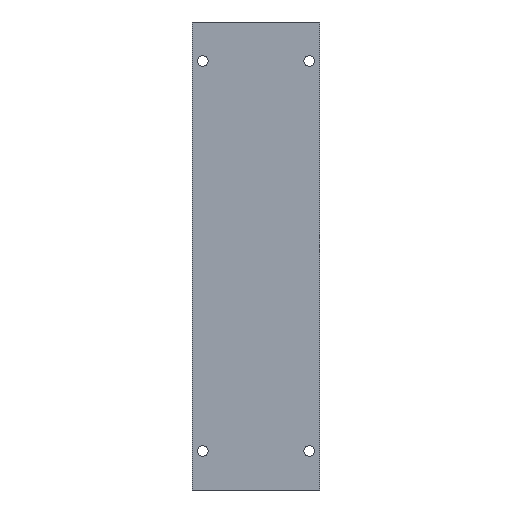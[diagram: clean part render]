
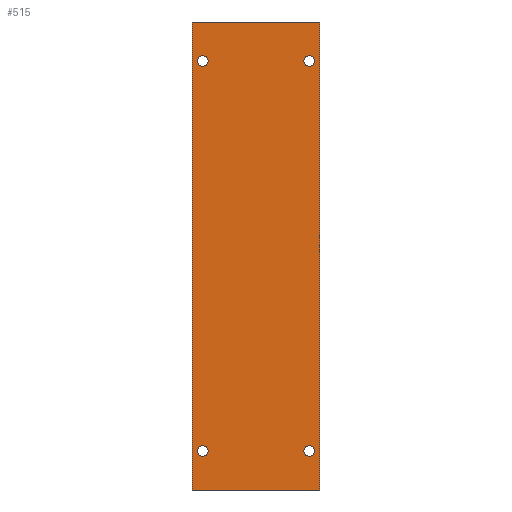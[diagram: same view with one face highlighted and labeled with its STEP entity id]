
A CAD part, front view. The second image highlights one B-rep face of the part: STEP entity #515.
In plain terms, the highlighted planar face has unit normal (0, -1, 0).
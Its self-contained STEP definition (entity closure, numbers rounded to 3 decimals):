
#29 = DIRECTION ( 'NONE',  ( 0., 0., 1. ) ) ;
#46 = DIRECTION ( 'NONE',  ( 0., 1., 0. ) ) ;
#59 = AXIS2_PLACEMENT_3D ( 'NONE', #793, #393, #1094 ) ;
#72 = VECTOR ( 'NONE', #708, 1000. ) ;
#85 = CARTESIAN_POINT ( 'NONE',  ( -45., 0., 169.5 ) ) ;
#100 = CARTESIAN_POINT ( 'NONE',  ( 54., 0., 198. ) ) ;
#110 = ORIENTED_EDGE ( 'NONE', *, *, #1201, .F. ) ;
#119 = EDGE_CURVE ( 'NONE', #816, #644, #219, .T. ) ;
#123 = CARTESIAN_POINT ( 'NONE',  ( -45., 0., 160.5 ) ) ;
#151 = ORIENTED_EDGE ( 'NONE', *, *, #789, .T. ) ;
#153 = FACE_OUTER_BOUND ( 'NONE', #920, .T. ) ;
#168 = AXIS2_PLACEMENT_3D ( 'NONE', #487, #409, #1192 ) ;
#212 = CIRCLE ( 'NONE', #321, 4.5 ) ;
#214 = CARTESIAN_POINT ( 'NONE',  ( -54., 0., 198. ) ) ;
#215 = AXIS2_PLACEMENT_3D ( 'NONE', #1130, #271, #1232 ) ;
#219 = LINE ( 'NONE', #100, #402 ) ;
#220 = ORIENTED_EDGE ( 'NONE', *, *, #1034, .F. ) ;
#246 = ORIENTED_EDGE ( 'NONE', *, *, #119, .F. ) ;
#249 = VERTEX_POINT ( 'NONE', #501 ) ;
#260 = EDGE_CURVE ( 'NONE', #506, #843, #1035, .T. ) ;
#271 = DIRECTION ( 'NONE',  ( 0., -1., 0. ) ) ;
#276 = AXIS2_PLACEMENT_3D ( 'NONE', #394, #878, #1070 ) ;
#288 = EDGE_CURVE ( 'NONE', #540, #249, #924, .T. ) ;
#294 = CARTESIAN_POINT ( 'NONE',  ( 45., 0., 165. ) ) ;
#307 = FACE_BOUND ( 'NONE', #1198, .T. ) ;
#321 = AXIS2_PLACEMENT_3D ( 'NONE', #976, #410, #398 ) ;
#330 = CARTESIAN_POINT ( 'NONE',  ( 45., 0., -169.5 ) ) ;
#331 = CARTESIAN_POINT ( 'NONE',  ( 45., 0., -165. ) ) ;
#334 = EDGE_CURVE ( 'NONE', #693, #944, #835, .T. ) ;
#346 = EDGE_CURVE ( 'NONE', #1006, #358, #855, .T. ) ;
#358 = VERTEX_POINT ( 'NONE', #1183 ) ;
#382 = DIRECTION ( 'NONE',  ( 0., 0., 1. ) ) ;
#385 = CIRCLE ( 'NONE', #59, 4.5 ) ;
#390 = ORIENTED_EDGE ( 'NONE', *, *, #346, .F. ) ;
#393 = DIRECTION ( 'NONE',  ( 0., 1., 0. ) ) ;
#394 = CARTESIAN_POINT ( 'NONE',  ( -45., 0., 165. ) ) ;
#398 = DIRECTION ( 'NONE',  ( 0., 0., -1. ) ) ;
#402 = VECTOR ( 'NONE', #662, 1000. ) ;
#409 = DIRECTION ( 'NONE',  ( 0., -1., 0. ) ) ;
#410 = DIRECTION ( 'NONE',  ( 0., -1., 0. ) ) ;
#417 = AXIS2_PLACEMENT_3D ( 'NONE', #799, #46, #29 ) ;
#422 = VERTEX_POINT ( 'NONE', #330 ) ;
#439 = ORIENTED_EDGE ( 'NONE', *, *, #910, .F. ) ;
#446 = EDGE_LOOP ( 'NONE', ( #605, #151 ) ) ;
#448 = EDGE_LOOP ( 'NONE', ( #928, #220 ) ) ;
#450 = FACE_BOUND ( 'NONE', #516, .T. ) ;
#479 = CARTESIAN_POINT ( 'NONE',  ( 45., 0., 165. ) ) ;
#482 = DIRECTION ( 'NONE',  ( 1., 0., 0. ) ) ;
#487 = CARTESIAN_POINT ( 'NONE',  ( -45., 0., -165. ) ) ;
#501 = CARTESIAN_POINT ( 'NONE',  ( 45., 0., 160.5 ) ) ;
#503 = CARTESIAN_POINT ( 'NONE',  ( -54., 0., 198. ) ) ;
#506 = VERTEX_POINT ( 'NONE', #85 ) ;
#513 = VECTOR ( 'NONE', #892, 1000. ) ;
#515 = ADVANCED_FACE ( 'NONE', ( #870, #615, #153, #307, #450 ), #747, .T. ) ;
#516 = EDGE_LOOP ( 'NONE', ( #1011, #390 ) ) ;
#540 = VERTEX_POINT ( 'NONE', #565 ) ;
#542 = AXIS2_PLACEMENT_3D ( 'NONE', #479, #1180, #1166 ) ;
#543 = CIRCLE ( 'NONE', #760, 4.5 ) ;
#565 = CARTESIAN_POINT ( 'NONE',  ( 45., 0., 169.5 ) ) ;
#568 = DIRECTION ( 'NONE',  ( 0., -1., 0. ) ) ;
#584 = ORIENTED_EDGE ( 'NONE', *, *, #933, .T. ) ;
#595 = CARTESIAN_POINT ( 'NONE',  ( -54., 0., -198. ) ) ;
#605 = ORIENTED_EDGE ( 'NONE', *, *, #260, .T. ) ;
#615 = FACE_BOUND ( 'NONE', #446, .T. ) ;
#644 = VERTEX_POINT ( 'NONE', #978 ) ;
#662 = DIRECTION ( 'NONE',  ( 0., 0., -1. ) ) ;
#665 = ORIENTED_EDGE ( 'NONE', *, *, #334, .F. ) ;
#672 = CARTESIAN_POINT ( 'NONE',  ( 45., 0., -160.5 ) ) ;
#693 = VERTEX_POINT ( 'NONE', #826 ) ;
#695 = EDGE_CURVE ( 'NONE', #422, #1068, #543, .T. ) ;
#708 = DIRECTION ( 'NONE',  ( 0., 0., 1. ) ) ;
#725 = AXIS2_PLACEMENT_3D ( 'NONE', #294, #568, #382 ) ;
#747 = PLANE ( 'NONE',  #215 ) ;
#750 = ORIENTED_EDGE ( 'NONE', *, *, #695, .T. ) ;
#760 = AXIS2_PLACEMENT_3D ( 'NONE', #331, #1121, #917 ) ;
#789 = EDGE_CURVE ( 'NONE', #843, #506, #815, .T. ) ;
#793 = CARTESIAN_POINT ( 'NONE',  ( 45., 0., -165. ) ) ;
#799 = CARTESIAN_POINT ( 'NONE',  ( -45., 0., 165. ) ) ;
#815 = CIRCLE ( 'NONE', #276, 4.5 ) ;
#816 = VERTEX_POINT ( 'NONE', #886 ) ;
#826 = CARTESIAN_POINT ( 'NONE',  ( -54., 0., -198. ) ) ;
#835 = LINE ( 'NONE', #503, #72 ) ;
#837 = LINE ( 'NONE', #595, #513 ) ;
#843 = VERTEX_POINT ( 'NONE', #123 ) ;
#855 = CIRCLE ( 'NONE', #168, 4.5 ) ;
#870 = FACE_BOUND ( 'NONE', #448, .T. ) ;
#878 = DIRECTION ( 'NONE',  ( 0., 1., 0. ) ) ;
#886 = CARTESIAN_POINT ( 'NONE',  ( 54., 0., 198. ) ) ;
#892 = DIRECTION ( 'NONE',  ( -1., 0., 0. ) ) ;
#910 = EDGE_CURVE ( 'NONE', #944, #816, #1022, .T. ) ;
#917 = DIRECTION ( 'NONE',  ( 0., 0., -1. ) ) ;
#920 = EDGE_LOOP ( 'NONE', ( #246, #439, #665, #110 ) ) ;
#924 = CIRCLE ( 'NONE', #542, 4.5 ) ;
#928 = ORIENTED_EDGE ( 'NONE', *, *, #288, .F. ) ;
#933 = EDGE_CURVE ( 'NONE', #1068, #422, #385, .T. ) ;
#936 = CIRCLE ( 'NONE', #725, 4.5 ) ;
#944 = VERTEX_POINT ( 'NONE', #214 ) ;
#976 = CARTESIAN_POINT ( 'NONE',  ( -45., 0., -165. ) ) ;
#978 = CARTESIAN_POINT ( 'NONE',  ( 54., 0., -198. ) ) ;
#995 = VECTOR ( 'NONE', #482, 1000. ) ;
#1006 = VERTEX_POINT ( 'NONE', #1106 ) ;
#1011 = ORIENTED_EDGE ( 'NONE', *, *, #1108, .F. ) ;
#1022 = LINE ( 'NONE', #1071, #995 ) ;
#1034 = EDGE_CURVE ( 'NONE', #249, #540, #936, .T. ) ;
#1035 = CIRCLE ( 'NONE', #417, 4.5 ) ;
#1068 = VERTEX_POINT ( 'NONE', #672 ) ;
#1070 = DIRECTION ( 'NONE',  ( 0., 0., 1. ) ) ;
#1071 = CARTESIAN_POINT ( 'NONE',  ( -54., 0., 198. ) ) ;
#1094 = DIRECTION ( 'NONE',  ( 0., 0., -1. ) ) ;
#1106 = CARTESIAN_POINT ( 'NONE',  ( -45., 0., -169.5 ) ) ;
#1108 = EDGE_CURVE ( 'NONE', #358, #1006, #212, .T. ) ;
#1121 = DIRECTION ( 'NONE',  ( 0., 1., 0. ) ) ;
#1130 = CARTESIAN_POINT ( 'NONE',  ( 0., 0., 0. ) ) ;
#1166 = DIRECTION ( 'NONE',  ( 0., 0., 1. ) ) ;
#1180 = DIRECTION ( 'NONE',  ( 0., -1., 0. ) ) ;
#1183 = CARTESIAN_POINT ( 'NONE',  ( -45., 0., -160.5 ) ) ;
#1192 = DIRECTION ( 'NONE',  ( 0., 0., -1. ) ) ;
#1198 = EDGE_LOOP ( 'NONE', ( #584, #750 ) ) ;
#1201 = EDGE_CURVE ( 'NONE', #644, #693, #837, .T. ) ;
#1232 = DIRECTION ( 'NONE',  ( 0., 0., -1. ) ) ;
